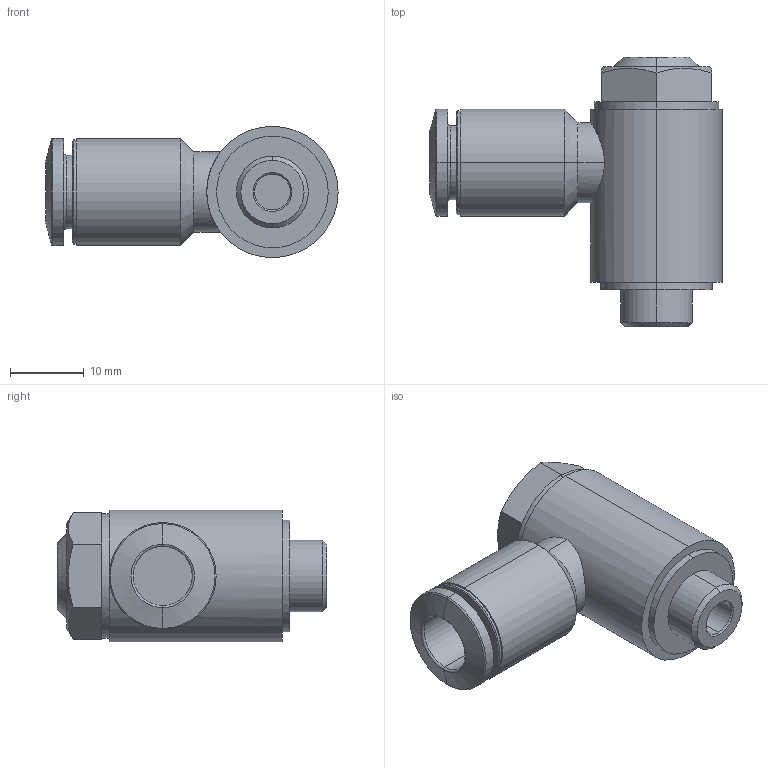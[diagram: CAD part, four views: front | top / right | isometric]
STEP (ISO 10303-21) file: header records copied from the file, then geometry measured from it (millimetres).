
FILE_DESCRIPTION (( 'STEP AP203' ), '1' );
FILE_NAME ('14010013.STEP', '2016-11-16T16:50:10', ( '' ), ( '' ), 'SwSTEP 2.0', 'SolidWorks 2015', '' );
FILE_SCHEMA (( 'CONFIG_CONTROL_DESIGN' ));
Length unit declared in the file: millimetre
Products named in the file (1): 14010013
Bounding box: 39.6 x 36.55 x 17.8 mm (x, y, z)
Volume: 9549.6 mm3; surface area: 4278.7 mm2
Topology: 1 solids, 1 shells, 71 faces, 146 edges, 86 vertices
Faces by surface type: plane 29, cylinder 22, cone 14, torus 6
Entity records: 2071 total; most frequent: CARTESIAN_POINT 448, DIRECTION 360, ORIENTED_EDGE 292, AXIS2_PLACEMENT_3D 150, EDGE_CURVE 146, VERTEX_POINT 86, EDGE_LOOP 80, CIRCLE 78
